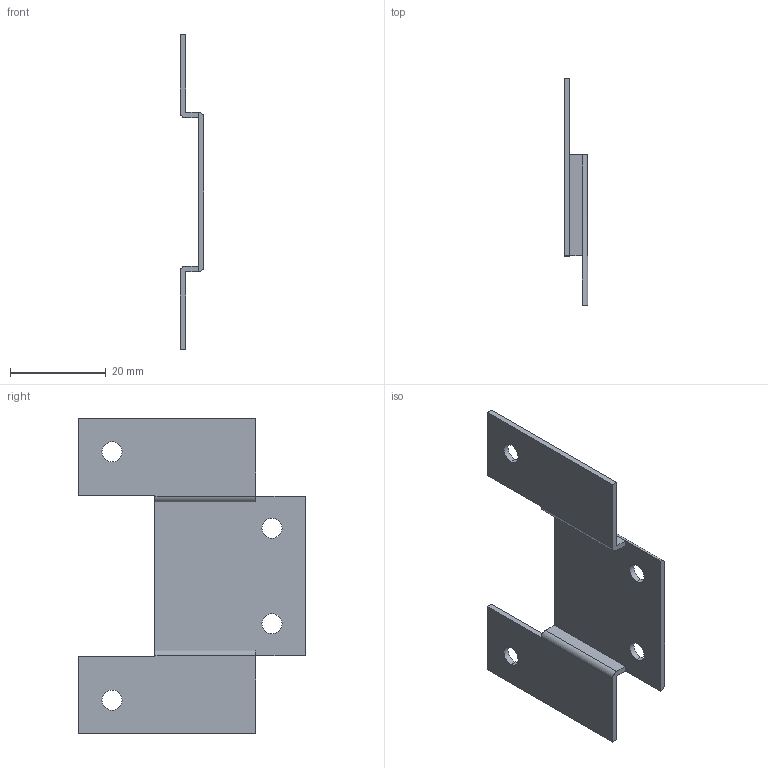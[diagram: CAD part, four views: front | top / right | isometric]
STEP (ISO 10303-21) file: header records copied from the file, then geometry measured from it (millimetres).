
FILE_DESCRIPTION (( 'STEP AP203' ), '1' );
FILE_NAME ('SX7000.STEP', '2021-06-24T13:29:00', ( '' ), ( '' ), 'SwSTEP 2.0', 'SolidWorks 2019', '' );
FILE_SCHEMA (( 'CONFIG_CONTROL_DESIGN' ));
Length unit declared in the file: millimetre
Products named in the file (1): SX7000
Bounding box: 5 x 47.5 x 66 mm (x, y, z)
Volume: 2737 mm3; surface area: 5061.7 mm2
Topology: 1 solids, 1 shells, 34 faces, 94 edges, 62 vertices
Faces by surface type: plane 22, cylinder 12
Entity records: 1181 total; most frequent: CARTESIAN_POINT 191, DIRECTION 190, ORIENTED_EDGE 188, EDGE_CURVE 94, LINE 68, VECTOR 68, VERTEX_POINT 62, AXIS2_PLACEMENT_3D 61
